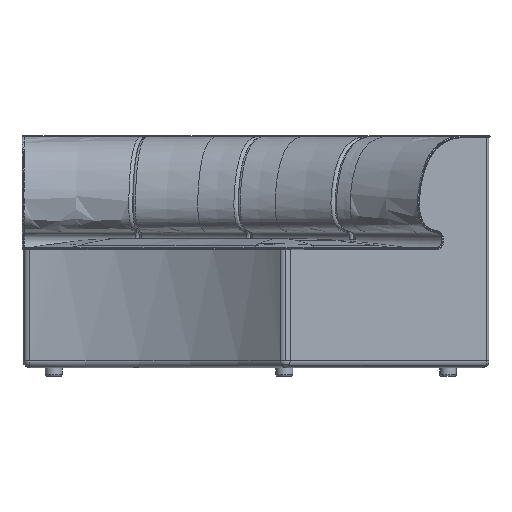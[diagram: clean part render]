
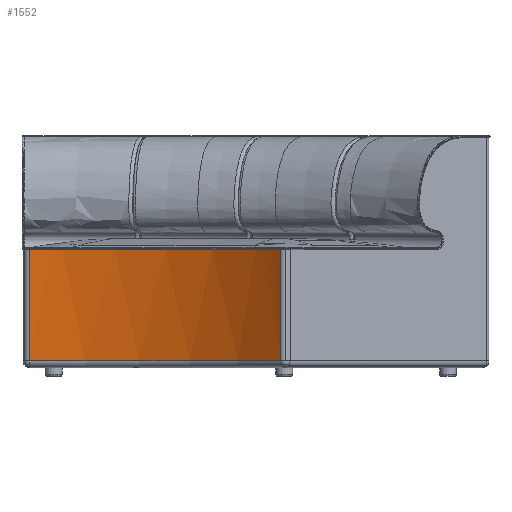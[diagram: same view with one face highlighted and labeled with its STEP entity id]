
A CAD part, front view. The second image highlights one B-rep face of the part: STEP entity #1552.
In plain terms, the highlighted cylindrical face has radius 1092.28 mm (diameter 2184.56 mm), a partial arc.
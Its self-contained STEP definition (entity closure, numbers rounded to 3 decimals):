
#380 = DIRECTION ( 'NONE',  ( 0., 0., -1. ) ) ;
#428 = CARTESIAN_POINT ( 'NONE',  ( 80., -22472.282, 40. ) ) ;
#998 = AXIS2_PLACEMENT_3D ( 'NONE', #6425, #2006, #4868 ) ;
#1202 = DIRECTION ( 'NONE',  ( 0., 0., 1. ) ) ;
#1224 = DIRECTION ( 'NONE',  ( 0., 0., -1. ) ) ;
#1552 = ADVANCED_FACE ( 'NONE', ( #8603 ), #4096, .F. ) ;
#1646 = DIRECTION ( 'NONE',  ( 0., 0., -1. ) ) ;
#1854 = EDGE_CURVE ( 'NONE', #8425, #6406, #8893, .T. ) ;
#2000 = DIRECTION ( 'NONE',  ( 0., 1., 0. ) ) ;
#2006 = DIRECTION ( 'NONE',  ( 0., 0., -1. ) ) ;
#2082 = EDGE_CURVE ( 'NONE', #2138, #2362, #8872, .T. ) ;
#2138 = VERTEX_POINT ( 'NONE', #7412 ) ;
#2362 = VERTEX_POINT ( 'NONE', #4319 ) ;
#2662 = DIRECTION ( 'NONE',  ( 0.383, 0.924, 0. ) ) ;
#2958 = DIRECTION ( 'NONE',  ( 0., 0., -1. ) ) ;
#3483 = VERTEX_POINT ( 'NONE', #4563 ) ;
#3916 = CIRCLE ( 'NONE', #5924, 1092.282 ) ;
#3954 = VECTOR ( 'NONE', #1646, 1000. ) ;
#4096 = CYLINDRICAL_SURFACE ( 'NONE', #998, 1092.282 ) ;
#4319 = CARTESIAN_POINT ( 'NONE',  ( 838.347, -21686.159, 40. ) ) ;
#4379 = CIRCLE ( 'NONE', #8092, 1092.282 ) ;
#4554 = CARTESIAN_POINT ( 'NONE',  ( 80., -22472.282, 370. ) ) ;
#4563 = CARTESIAN_POINT ( 'NONE',  ( 765.24, -21621.679, 370. ) ) ;
#4651 = DIRECTION ( 'NONE',  ( 0., 0., 1. ) ) ;
#4790 = CARTESIAN_POINT ( 'NONE',  ( 99.64, -21380.177, 370. ) ) ;
#4868 = DIRECTION ( 'NONE',  ( 0., 1., 0. ) ) ;
#5010 = CARTESIAN_POINT ( 'NONE',  ( 80., -22472.282, 370. ) ) ;
#5042 = EDGE_LOOP ( 'NONE', ( #6362, #8818, #9006, #5141, #6441, #6416 ) ) ;
#5091 = AXIS2_PLACEMENT_3D ( 'NONE', #428, #1202, #2662 ) ;
#5141 = ORIENTED_EDGE ( 'NONE', *, *, #6880, .F. ) ;
#5549 = CIRCLE ( 'NONE', #5091, 1092.282 ) ;
#5924 = AXIS2_PLACEMENT_3D ( 'NONE', #6105, #380, #7546 ) ;
#6105 = CARTESIAN_POINT ( 'NONE',  ( 80., -22472.282, 370. ) ) ;
#6362 = ORIENTED_EDGE ( 'NONE', *, *, #8260, .F. ) ;
#6406 = VERTEX_POINT ( 'NONE', #8881 ) ;
#6416 = ORIENTED_EDGE ( 'NONE', *, *, #8431, .F. ) ;
#6425 = CARTESIAN_POINT ( 'NONE',  ( 80., -22472.282, 195. ) ) ;
#6441 = ORIENTED_EDGE ( 'NONE', *, *, #2082, .F. ) ;
#6647 = CARTESIAN_POINT ( 'NONE',  ( 838.347, -21686.159, 195. ) ) ;
#6880 = EDGE_CURVE ( 'NONE', #2362, #7494, #5549, .T. ) ;
#6888 = AXIS2_PLACEMENT_3D ( 'NONE', #5010, #1224, #2000 ) ;
#7159 = VECTOR ( 'NONE', #4651, 1000. ) ;
#7412 = CARTESIAN_POINT ( 'NONE',  ( 838.347, -21686.159, 370. ) ) ;
#7494 = VERTEX_POINT ( 'NONE', #7623 ) ;
#7546 = DIRECTION ( 'NONE',  ( 0., 1., 0. ) ) ;
#7594 = CARTESIAN_POINT ( 'NONE',  ( 99.64, -21380.177, 195. ) ) ;
#7623 = CARTESIAN_POINT ( 'NONE',  ( 99.64, -21380.177, 40. ) ) ;
#8092 = AXIS2_PLACEMENT_3D ( 'NONE', #4554, #2958, #8282 ) ;
#8260 = EDGE_CURVE ( 'NONE', #6406, #3483, #4379, .T. ) ;
#8282 = DIRECTION ( 'NONE',  ( 0., 1., 0. ) ) ;
#8425 = VERTEX_POINT ( 'NONE', #4790 ) ;
#8431 = EDGE_CURVE ( 'NONE', #3483, #2138, #3916, .T. ) ;
#8435 = EDGE_CURVE ( 'NONE', #7494, #8425, #9106, .T. ) ;
#8603 = FACE_OUTER_BOUND ( 'NONE', #5042, .T. ) ;
#8818 = ORIENTED_EDGE ( 'NONE', *, *, #1854, .F. ) ;
#8872 = LINE ( 'NONE', #6647, #3954 ) ;
#8881 = CARTESIAN_POINT ( 'NONE',  ( 196.929, -21386.277, 370. ) ) ;
#8893 = CIRCLE ( 'NONE', #6888, 1092.282 ) ;
#9006 = ORIENTED_EDGE ( 'NONE', *, *, #8435, .F. ) ;
#9106 = LINE ( 'NONE', #7594, #7159 ) ;
